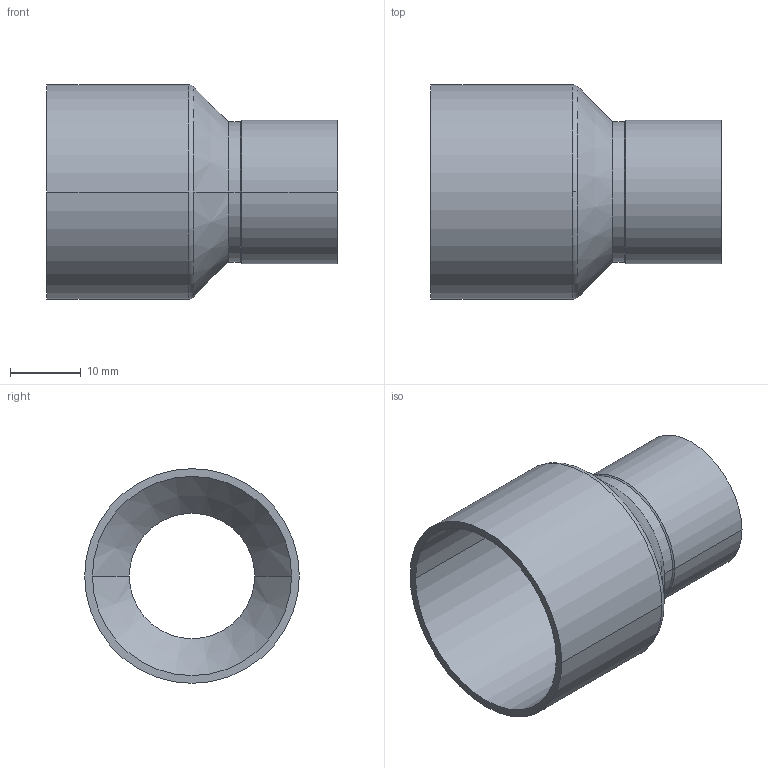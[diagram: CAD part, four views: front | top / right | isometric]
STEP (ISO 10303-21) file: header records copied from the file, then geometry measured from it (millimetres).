
FILE_DESCRIPTION((''),'2;1');
FILE_NAME('G:\Technics\CAD\Bauteile\Serie 15240\152402816.stp','2005-10-21T12:51:10',('boden'),(''),'Autodesk Inventor 8','Autodesk Inventor 8','');
FILE_SCHEMA(('AUTOMOTIVE_DESIGN { 1 0 10303 214 1 1 1 1 }'));
Length unit declared in the file: millimetre
Products named in the file (1): 152402816
Bounding box: 41 x 30.33 x 30.33 mm (x, y, z)
Volume: 3687.8 mm3; surface area: 6872.4 mm2
Topology: 1 solids, 1 shells, 24 faces, 52 edges, 30 vertices
Faces by surface type: cylinder 12, cone 8, torus 2, plane 2
Entity records: 683 total; most frequent: DIRECTION 134, CARTESIAN_POINT 107, ORIENTED_EDGE 104, AXIS2_PLACEMENT_3D 57, EDGE_CURVE 52, CIRCLE 32, VERTEX_POINT 30, EDGE_LOOP 26
